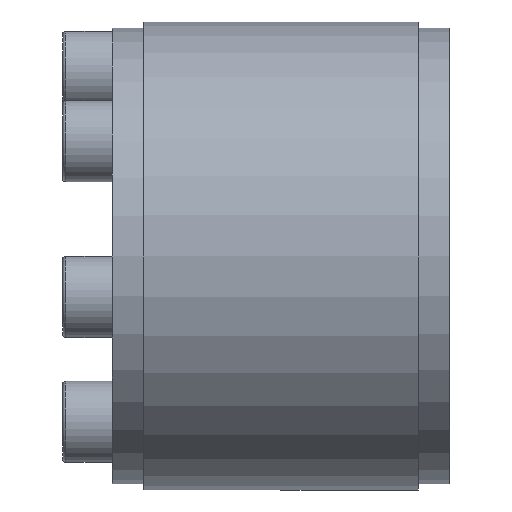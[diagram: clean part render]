
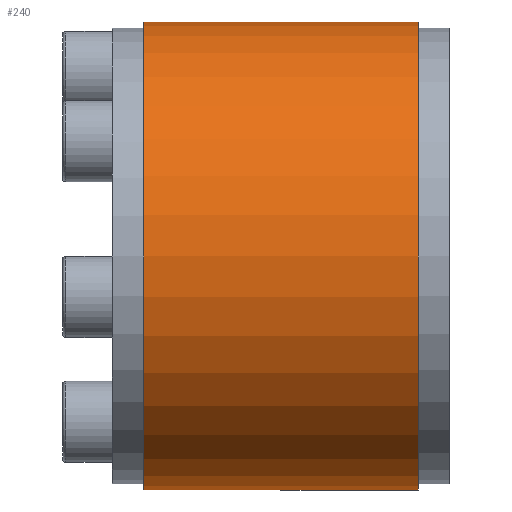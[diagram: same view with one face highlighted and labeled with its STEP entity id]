
A CAD part, left-side view. The second image highlights one B-rep face of the part: STEP entity #240.
In plain terms, the highlighted cylindrical face has radius 37.5 mm (diameter 75 mm), a partial arc.
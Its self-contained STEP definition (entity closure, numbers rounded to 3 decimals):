
#25 = ORIENTED_EDGE ( 'NONE', *, *, #1529, .F. ) ;
#39 = LINE ( 'NONE', #1798, #1976 ) ;
#104 = AXIS2_PLACEMENT_3D ( 'NONE', #281, #932, #727 ) ;
#158 = VERTEX_POINT ( 'NONE', #521 ) ;
#163 = CARTESIAN_POINT ( 'NONE',  ( 0., 22., 0. ) ) ;
#240 = ADVANCED_FACE ( 'NONE', ( #726 ), #1981, .T. ) ;
#281 = CARTESIAN_POINT ( 'NONE',  ( 0., 0., 0. ) ) ;
#460 = DIRECTION ( 'NONE',  ( 0., -1., 0. ) ) ;
#521 = CARTESIAN_POINT ( 'NONE',  ( 0., 22., 37.5 ) ) ;
#538 = VECTOR ( 'NONE', #2314, 1000. ) ;
#726 = FACE_OUTER_BOUND ( 'NONE', #2240, .T. ) ;
#727 = DIRECTION ( 'NONE',  ( 0., 0., -1. ) ) ;
#744 = EDGE_CURVE ( 'NONE', #158, #1314, #848, .T. ) ;
#805 = DIRECTION ( 'NONE',  ( 0., -1., 0. ) ) ;
#811 = VERTEX_POINT ( 'NONE', #2358 ) ;
#848 = CIRCLE ( 'NONE', #1453, 37.5 ) ;
#932 = DIRECTION ( 'NONE',  ( 0., -1., 0. ) ) ;
#951 = DIRECTION ( 'NONE',  ( 0., 0., -1. ) ) ;
#1156 = ORIENTED_EDGE ( 'NONE', *, *, #1637, .F. ) ;
#1174 = CARTESIAN_POINT ( 'NONE',  ( 0., -22., 0. ) ) ;
#1314 = VERTEX_POINT ( 'NONE', #2576 ) ;
#1375 = AXIS2_PLACEMENT_3D ( 'NONE', #1174, #2207, #951 ) ;
#1394 = ORIENTED_EDGE ( 'NONE', *, *, #2621, .T. ) ;
#1453 = AXIS2_PLACEMENT_3D ( 'NONE', #163, #805, #1514 ) ;
#1514 = DIRECTION ( 'NONE',  ( 0., 0., -1. ) ) ;
#1529 = EDGE_CURVE ( 'NONE', #158, #2286, #39, .T. ) ;
#1637 = EDGE_CURVE ( 'NONE', #2286, #811, #2100, .T. ) ;
#1798 = CARTESIAN_POINT ( 'NONE',  ( 0., 0., 37.5 ) ) ;
#1976 = VECTOR ( 'NONE', #460, 1000. ) ;
#1981 = CYLINDRICAL_SURFACE ( 'NONE', #104, 37.5 ) ;
#2065 = LINE ( 'NONE', #2254, #538 ) ;
#2100 = CIRCLE ( 'NONE', #1375, 37.5 ) ;
#2207 = DIRECTION ( 'NONE',  ( 0., -1., 0. ) ) ;
#2240 = EDGE_LOOP ( 'NONE', ( #25, #2490, #1394, #1156 ) ) ;
#2254 = CARTESIAN_POINT ( 'NONE',  ( 0., 0., -37.5 ) ) ;
#2286 = VERTEX_POINT ( 'NONE', #2586 ) ;
#2314 = DIRECTION ( 'NONE',  ( 0., -1., 0. ) ) ;
#2358 = CARTESIAN_POINT ( 'NONE',  ( 0., -22., -37.5 ) ) ;
#2490 = ORIENTED_EDGE ( 'NONE', *, *, #744, .T. ) ;
#2576 = CARTESIAN_POINT ( 'NONE',  ( 0., 22., -37.5 ) ) ;
#2586 = CARTESIAN_POINT ( 'NONE',  ( 0., -22., 37.5 ) ) ;
#2621 = EDGE_CURVE ( 'NONE', #1314, #811, #2065, .T. ) ;
